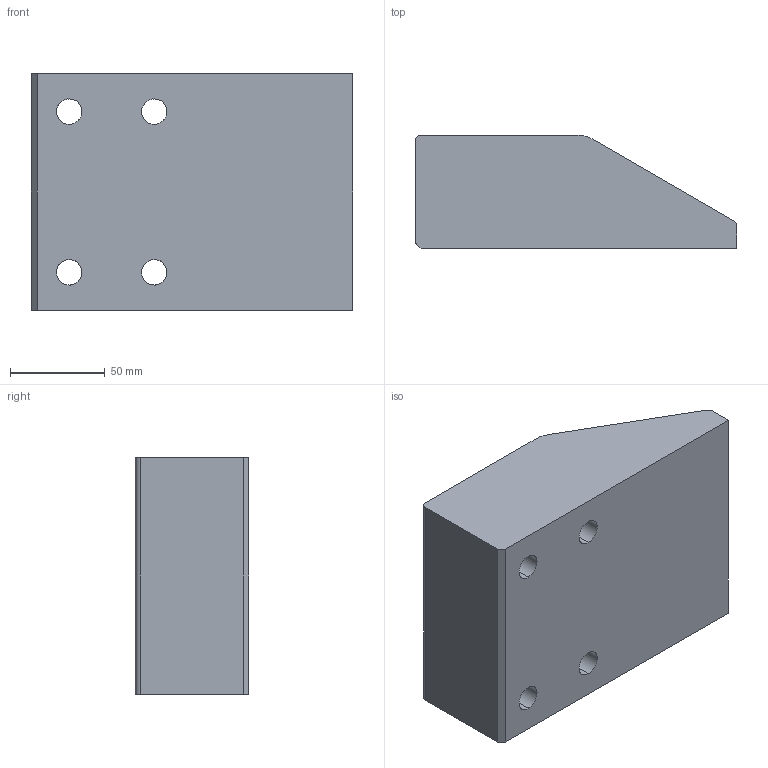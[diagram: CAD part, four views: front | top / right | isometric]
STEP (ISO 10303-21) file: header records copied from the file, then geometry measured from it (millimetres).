
FILE_DESCRIPTION(('CATIA V5 STEP Exchange'),'2;1');
FILE_NAME('C:\Users\Raffaele\Desktop\3D X SITO CF\A935\GSB_OILLESS_G2290112517060\STEP-2.03\A935-12517060.stp','2019-07-12T07:23:52+00:00',('none'),('none'),'CATIA Version 5 Release 20 GA (IN-10)','CATIA V5 STEP AP203','none');
FILE_SCHEMA(('CONFIG_CONTROL_DESIGN'));
Length unit declared in the file: millimetre
Products named in the file (1): A935-12517060
Bounding box: 170 x 60 x 125 mm (x, y, z)
Volume: 977367.6 mm3; surface area: 81919.6 mm2
Topology: 1 solids, 1 shells, 39 faces, 131 edges, 98 vertices
Faces by surface type: cylinder 19, plane 12, torus 8
Entity records: 1691 total; most frequent: CARTESIAN_POINT 493, ORIENTED_EDGE 262, DIRECTION 193, EDGE_CURVE 131, AXIS2_PLACEMENT_3D 118, VERTEX_POINT 98, CIRCLE 78, EDGE_LOOP 51
